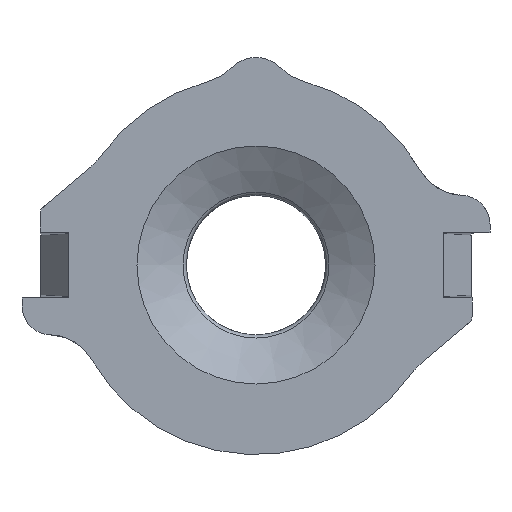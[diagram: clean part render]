
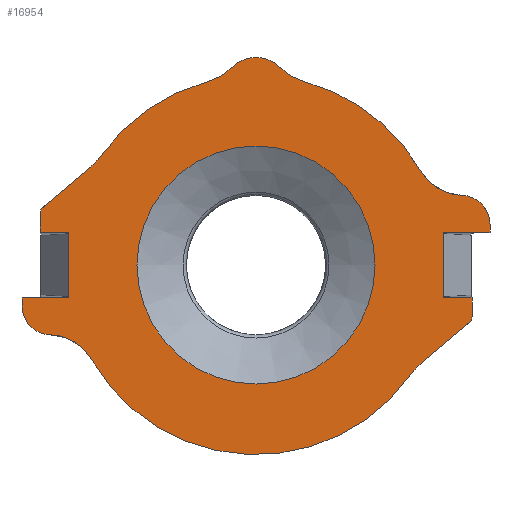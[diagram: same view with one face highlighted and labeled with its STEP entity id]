
A CAD part, top view. The second image highlights one B-rep face of the part: STEP entity #16954.
In plain terms, the highlighted planar face has unit normal (0, 0, 1).
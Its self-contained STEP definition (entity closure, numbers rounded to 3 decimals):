
#276=ELLIPSE('',#17592,0.7,0.7);
#291=ELLIPSE('',#17759,0.7,0.7);
#537=CIRCLE('',#17528,2.8);
#542=CIRCLE('',#17545,9.919);
#572=CIRCLE('',#17619,2.404);
#575=CIRCLE('',#17623,4.2);
#640=CIRCLE('',#17787,2.404);
#672=CIRCLE('',#17867,15.8);
#674=CIRCLE('',#17871,5.1);
#689=CIRCLE('',#17902,4.2);
#690=CIRCLE('',#17904,5.);
#694=CIRCLE('',#17910,5.);
#695=CIRCLE('',#17912,15.8);
#696=CIRCLE('',#17913,15.8);
#697=CIRCLE('',#17914,5.1);
#1257=LINE('',#23879,#2232);
#1260=LINE('',#23884,#2235);
#1263=LINE('',#23890,#2238);
#1264=LINE('',#23892,#2239);
#1269=LINE('',#23907,#2244);
#1272=LINE('',#23912,#2247);
#1274=LINE('',#23916,#2249);
#1276=LINE('',#23920,#2251);
#1326=LINE('',#24164,#2301);
#1329=LINE('',#24174,#2304);
#1464=LINE('',#24915,#2439);
#1467=LINE('',#24925,#2442);
#2232=VECTOR('',#19341,1000.);
#2235=VECTOR('',#19346,1000.);
#2238=VECTOR('',#19351,1000.);
#2239=VECTOR('',#19354,1000.);
#2244=VECTOR('',#19367,1000.);
#2247=VECTOR('',#19372,1000.);
#2249=VECTOR('',#19376,1000.);
#2251=VECTOR('',#19380,1000.);
#2301=VECTOR('',#19546,1000.);
#2304=VECTOR('',#19557,1000.);
#2439=VECTOR('',#20018,1000.);
#2442=VECTOR('',#20029,1000.);
#4911=ORIENTED_EDGE('',*,*,#7647,.F.);
#4912=ORIENTED_EDGE('',*,*,#7307,.F.);
#4913=ORIENTED_EDGE('',*,*,#7305,.F.);
#4914=ORIENTED_EDGE('',*,*,#7303,.F.);
#4915=ORIENTED_EDGE('',*,*,#7300,.T.);
#4916=ORIENTED_EDGE('',*,*,#7682,.T.);
#4917=ORIENTED_EDGE('',*,*,#7853,.T.);
#4918=ORIENTED_EDGE('',*,*,#7861,.T.);
#4919=ORIENTED_EDGE('',*,*,#7854,.T.);
#4920=ORIENTED_EDGE('',*,*,#7297,.F.);
#4921=ORIENTED_EDGE('',*,*,#7860,.F.);
#4922=ORIENTED_EDGE('',*,*,#7862,.F.);
#4923=ORIENTED_EDGE('',*,*,#7863,.F.);
#4924=ORIENTED_EDGE('',*,*,#7397,.F.);
#4925=ORIENTED_EDGE('',*,*,#7399,.F.);
#4926=ORIENTED_EDGE('',*,*,#7402,.F.);
#4927=ORIENTED_EDGE('',*,*,#7293,.F.);
#4928=ORIENTED_EDGE('',*,*,#7292,.F.);
#4929=ORIENTED_EDGE('',*,*,#7289,.T.);
#4930=ORIENTED_EDGE('',*,*,#7286,.F.);
#4931=ORIENTED_EDGE('',*,*,#7437,.F.);
#4932=ORIENTED_EDGE('',*,*,#7441,.F.);
#4933=ORIENTED_EDGE('',*,*,#7804,.F.);
#4934=ORIENTED_EDGE('',*,*,#7807,.F.);
#4935=ORIENTED_EDGE('',*,*,#7642,.F.);
#4936=ORIENTED_EDGE('',*,*,#7644,.F.);
#4937=ORIENTED_EDGE('',*,*,#7327,.T.);
#7286=EDGE_CURVE('',#9024,#9025,#1257,.F.);
#7289=EDGE_CURVE('',#9026,#9025,#1260,.T.);
#7292=EDGE_CURVE('',#9026,#9027,#1263,.T.);
#7293=EDGE_CURVE('',#9027,#9028,#1264,.F.);
#7297=EDGE_CURVE('',#9031,#9032,#537,.F.);
#7300=EDGE_CURVE('',#9034,#9033,#1269,.F.);
#7303=EDGE_CURVE('',#9034,#9035,#1272,.T.);
#7305=EDGE_CURVE('',#9035,#9036,#1274,.T.);
#7307=EDGE_CURVE('',#9036,#9037,#1276,.F.);
#7327=EDGE_CURVE('',#9050,#9050,#542,.T.);
#7397=EDGE_CURVE('',#9092,#9093,#1326,.F.);
#7399=EDGE_CURVE('',#9094,#9092,#276,.F.);
#7402=EDGE_CURVE('',#9028,#9094,#1329,.T.);
#7437=EDGE_CURVE('',#9114,#9024,#572,.F.);
#7441=EDGE_CURVE('',#9116,#9114,#575,.T.);
#7642=EDGE_CURVE('',#9245,#9246,#1464,.F.);
#7644=EDGE_CURVE('',#9247,#9245,#291,.F.);
#7647=EDGE_CURVE('',#9037,#9247,#1467,.T.);
#7682=EDGE_CURVE('',#9033,#9267,#640,.T.);
#7804=EDGE_CURVE('',#9341,#9116,#672,.F.);
#7807=EDGE_CURVE('',#9246,#9341,#674,.T.);
#7853=EDGE_CURVE('',#9267,#9370,#689,.F.);
#7854=EDGE_CURVE('',#9371,#9032,#690,.F.);
#7860=EDGE_CURVE('',#9374,#9031,#694,.T.);
#7861=EDGE_CURVE('',#9370,#9371,#695,.T.);
#7862=EDGE_CURVE('',#9375,#9374,#696,.F.);
#7863=EDGE_CURVE('',#9093,#9375,#697,.T.);
#9024=VERTEX_POINT('',#23878);
#9025=VERTEX_POINT('',#23880);
#9026=VERTEX_POINT('',#23885);
#9027=VERTEX_POINT('',#23889);
#9028=VERTEX_POINT('',#23893);
#9031=VERTEX_POINT('',#23900);
#9032=VERTEX_POINT('',#23902);
#9033=VERTEX_POINT('',#23906);
#9034=VERTEX_POINT('',#23908);
#9035=VERTEX_POINT('',#23913);
#9036=VERTEX_POINT('',#23917);
#9037=VERTEX_POINT('',#23921);
#9050=VERTEX_POINT('',#23962);
#9092=VERTEX_POINT('',#24163);
#9093=VERTEX_POINT('',#24165);
#9094=VERTEX_POINT('',#24169);
#9114=VERTEX_POINT('',#24415);
#9116=VERTEX_POINT('',#24422);
#9245=VERTEX_POINT('',#24914);
#9246=VERTEX_POINT('',#24916);
#9247=VERTEX_POINT('',#24920);
#9267=VERTEX_POINT('',#25163);
#9341=VERTEX_POINT('',#25452);
#9370=VERTEX_POINT('',#25597);
#9371=VERTEX_POINT('',#25601);
#9374=VERTEX_POINT('',#25611);
#9375=VERTEX_POINT('',#25616);
#10581=EDGE_LOOP('',(#4911,#4912,#4913,#4914,#4915,#4916,#4917,#4918,#4919,
#4920,#4921,#4922,#4923,#4924,#4925,#4926,#4927,#4928,#4929,#4930,#4931,
#4932,#4933,#4934,#4935,#4936));
#10582=EDGE_LOOP('',(#4937));
#11282=FACE_BOUND('',#10581,.T.);
#11283=FACE_BOUND('',#10582,.T.);
#11752=PLANE('',#17911);
#16954=ADVANCED_FACE('',(#11282,#11283),#11752,.T.);
#17528=AXIS2_PLACEMENT_3D('',#23901,#19361,#19362);
#17545=AXIS2_PLACEMENT_3D('',#23961,#19420,#19421);
#17592=AXIS2_PLACEMENT_3D('',#24168,#19550,#19551);
#17619=AXIS2_PLACEMENT_3D('',#24416,#19615,#19616);
#17623=AXIS2_PLACEMENT_3D('',#24423,#19624,#19625);
#17759=AXIS2_PLACEMENT_3D('',#24919,#20022,#20023);
#17787=AXIS2_PLACEMENT_3D('',#25164,#20089,#20090);
#17867=AXIS2_PLACEMENT_3D('',#25453,#20328,#20329);
#17871=AXIS2_PLACEMENT_3D('',#25458,#20336,#20337);
#17902=AXIS2_PLACEMENT_3D('',#25598,#20415,#20416);
#17904=AXIS2_PLACEMENT_3D('',#25600,#20419,#20420);
#17910=AXIS2_PLACEMENT_3D('',#25612,#20433,#20434);
#17911=AXIS2_PLACEMENT_3D('',#25613,#20435,#20436);
#17912=AXIS2_PLACEMENT_3D('',#25614,#20437,#20438);
#17913=AXIS2_PLACEMENT_3D('',#25615,#20439,#20440);
#17914=AXIS2_PLACEMENT_3D('',#25617,#20441,#20442);
#19341=DIRECTION('',(0.,-1.,0.));
#19346=DIRECTION('',(-1.,0.,0.));
#19351=DIRECTION('',(0.,1.,0.));
#19354=DIRECTION('',(1.,0.,0.));
#19361=DIRECTION('',(0.,0.,1.));
#19362=DIRECTION('',(1.,0.,0.));
#19367=DIRECTION('',(0.,-1.,0.));
#19372=DIRECTION('',(-1.,0.,0.));
#19376=DIRECTION('',(0.,-1.,0.));
#19380=DIRECTION('',(-1.,0.,0.));
#19420=DIRECTION('',(0.,0.,-1.));
#19421=DIRECTION('',(-1.,0.,0.));
#19546=DIRECTION('',(-0.766,-0.643,0.));
#19550=DIRECTION('',(0.,0.,1.));
#19551=DIRECTION('',(-0.766,-0.643,0.));
#19557=DIRECTION('',(0.,1.,0.));
#19615=DIRECTION('',(0.,0.,1.));
#19616=DIRECTION('',(1.,0.,0.));
#19624=DIRECTION('',(0.,0.,1.));
#19625=DIRECTION('',(1.,0.,0.));
#20018=DIRECTION('',(0.766,0.643,0.));
#20022=DIRECTION('',(0.,0.,1.));
#20023=DIRECTION('',(0.766,0.643,0.));
#20029=DIRECTION('',(0.,-1.,0.));
#20089=DIRECTION('',(0.,0.,1.));
#20090=DIRECTION('',(1.,0.,0.));
#20328=DIRECTION('',(0.,0.,1.));
#20329=DIRECTION('',(1.,0.,0.));
#20336=DIRECTION('',(0.,0.,1.));
#20337=DIRECTION('',(1.,0.,0.));
#20415=DIRECTION('',(0.,0.,1.));
#20416=DIRECTION('',(1.,0.,0.));
#20419=DIRECTION('',(0.,0.,1.));
#20420=DIRECTION('',(1.,0.,0.));
#20433=DIRECTION('',(0.,0.,1.));
#20434=DIRECTION('',(1.,0.,0.));
#20435=DIRECTION('',(0.,0.,1.));
#20436=DIRECTION('',(1.,0.,0.));
#20437=DIRECTION('',(0.,0.,1.));
#20438=DIRECTION('',(1.,0.,0.));
#20439=DIRECTION('',(0.,0.,1.));
#20440=DIRECTION('',(1.,0.,0.));
#20441=DIRECTION('',(0.,0.,1.));
#20442=DIRECTION('',(1.,0.,0.));
#23878=CARTESIAN_POINT('',(-19.5,-3.4,4.1));
#23879=CARTESIAN_POINT('',(-19.5,-15.8,4.1));
#23880=CARTESIAN_POINT('',(-19.5,-2.736,4.1));
#23884=CARTESIAN_POINT('',(0.,-2.736,4.1));
#23885=CARTESIAN_POINT('',(-15.6,-2.736,4.1));
#23889=CARTESIAN_POINT('',(-15.6,2.736,4.1));
#23890=CARTESIAN_POINT('',(-15.6,-15.8,4.1));
#23892=CARTESIAN_POINT('',(0.,2.736,4.1));
#23893=CARTESIAN_POINT('',(-18.,2.736,4.1));
#23900=CARTESIAN_POINT('',(-1.96,16.5,4.1));
#23901=CARTESIAN_POINT('',(0.,14.5,4.1));
#23902=CARTESIAN_POINT('',(1.96,16.5,4.1));
#23906=CARTESIAN_POINT('',(19.5,3.4,4.1));
#23907=CARTESIAN_POINT('',(19.5,0.,4.1));
#23908=CARTESIAN_POINT('',(19.5,2.736,4.1));
#23912=CARTESIAN_POINT('',(0.,2.736,4.1));
#23913=CARTESIAN_POINT('',(15.6,2.736,4.1));
#23916=CARTESIAN_POINT('',(15.6,-15.8,4.1));
#23917=CARTESIAN_POINT('',(15.6,-2.736,4.1));
#23920=CARTESIAN_POINT('',(0.,-2.736,4.1));
#23921=CARTESIAN_POINT('',(18.,-2.736,4.1));
#23961=CARTESIAN_POINT('',(0.,0.,4.1));
#23962=CARTESIAN_POINT('',(-9.919,0.,4.1));
#24163=CARTESIAN_POINT('',(-17.75,4.836,4.1));
#24164=CARTESIAN_POINT('',(-17.495,5.05,4.1));
#24165=CARTESIAN_POINT('',(-13.783,8.165,4.1));
#24168=CARTESIAN_POINT('',(-17.3,4.3,4.1));
#24169=CARTESIAN_POINT('',(-18.,4.3,4.1));
#24174=CARTESIAN_POINT('',(-18.,-15.8,4.1));
#24415=CARTESIAN_POINT('',(-17.178,-5.802,4.1));
#24416=CARTESIAN_POINT('',(-17.096,-3.4,4.1));
#24422=CARTESIAN_POINT('',(-13.683,-7.9,4.1));
#24423=CARTESIAN_POINT('',(-17.321,-10.,4.1));
#24914=CARTESIAN_POINT('',(17.75,-4.836,4.1));
#24915=CARTESIAN_POINT('',(1.935,-18.106,4.1));
#24916=CARTESIAN_POINT('',(13.783,-8.165,4.1));
#24919=CARTESIAN_POINT('',(17.3,-4.3,4.1));
#24920=CARTESIAN_POINT('',(18.,-4.3,4.1));
#24925=CARTESIAN_POINT('',(18.,-15.8,4.1));
#25163=CARTESIAN_POINT('',(17.178,5.802,4.1));
#25164=CARTESIAN_POINT('',(17.096,3.4,4.1));
#25452=CARTESIAN_POINT('',(12.898,-9.126,4.1));
#25453=CARTESIAN_POINT('',(0.,0.,4.1));
#25458=CARTESIAN_POINT('',(17.061,-12.072,4.1));
#25597=CARTESIAN_POINT('',(13.683,7.9,4.1));
#25598=CARTESIAN_POINT('',(17.321,10.,4.1));
#25600=CARTESIAN_POINT('',(5.46,20.071,4.1));
#25601=CARTESIAN_POINT('',(4.147,15.246,4.1));
#25611=CARTESIAN_POINT('',(-4.147,15.246,4.1));
#25612=CARTESIAN_POINT('',(-5.46,20.071,4.1));
#25613=CARTESIAN_POINT('',(0.,-15.8,4.1));
#25614=CARTESIAN_POINT('',(0.,0.,4.1));
#25615=CARTESIAN_POINT('',(0.,0.,4.1));
#25616=CARTESIAN_POINT('',(-12.898,9.126,4.1));
#25617=CARTESIAN_POINT('',(-17.061,12.072,4.1));
